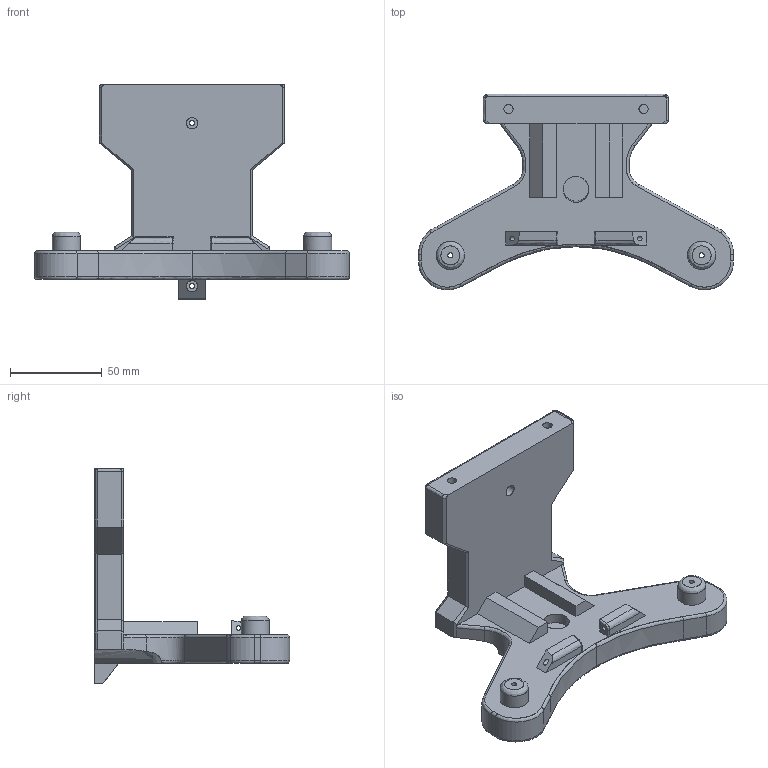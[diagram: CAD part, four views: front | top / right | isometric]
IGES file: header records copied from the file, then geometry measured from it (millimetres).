
Global section: file name: E:\M1337\M1337 Remodel\English\Clutch\IGES Files\Grip Frame Lower.igs; native system: NX V2007; preprocessor: SIEMENS PLM Software NX 2027; date: 20260819.195724; units: inch
Bounding box: 171.73 x 106.61 x 117.1 mm (x, y, z)
Surface area: 52040 mm2 (no closed solid volume)
Topology: 0 solids, 0 shells, 189 faces, 1343 edges, 1543 vertices
Faces by surface type: bspline 189
